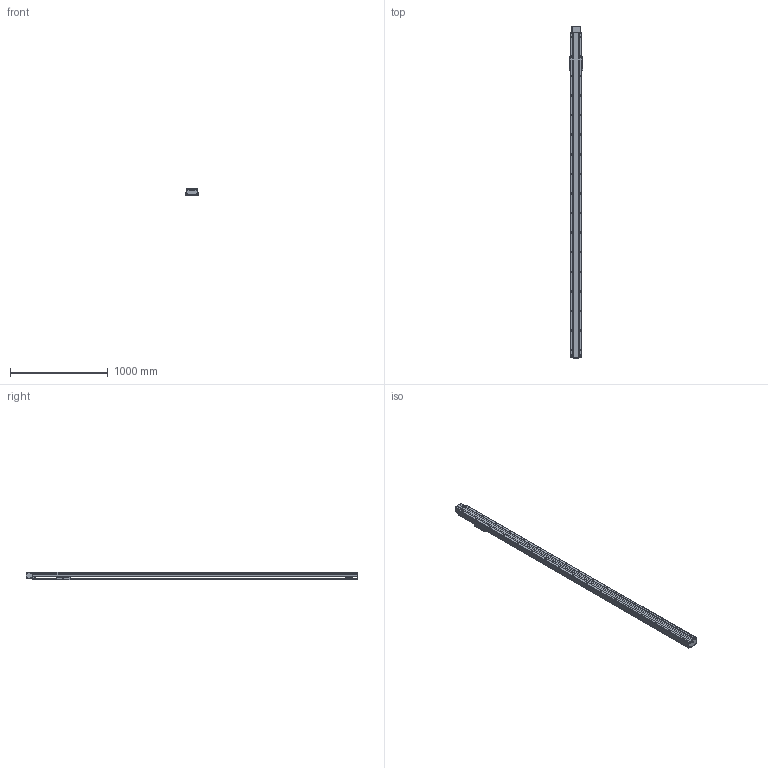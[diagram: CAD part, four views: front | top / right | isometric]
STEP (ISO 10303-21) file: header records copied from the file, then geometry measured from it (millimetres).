
FILE_DESCRIPTION(/* description */ (''),/* implementation_level */ '2;1');
FILE_NAME(/* name */ 'TKB120-FR-3000_asm1_stp.stp',/* time_stamp */ '2016-06-28T16:29:27+08:00',/* author */ (''),/* organization */ (''),/* preprocessor_version */ 'ST-DEVELOPER v15',/* originating_system */ 'SIEMENS PLM Software NX 8.5',/* authorisation */ '');
FILE_SCHEMA (('AUTOMOTIVE_DESIGN { 1 0 10303 214 3 1 1 1 }'));
Length unit declared in the file: millimetre
Products named in the file (3): 200-2; 200-1; TKB120-FR-3000_asm1_stp
Assembly tree (2 placements, depth 2):
  TKB120-FR-3000_asm1_stp
    200-1
    200-2
Bounding box: 134 x 3391 x 80 mm (x, y, z)
Volume: 7982512.3 mm3; surface area: 3365586.9 mm2
Topology: 2 solids, 3 shells, 959 faces, 2855 edges, 1872 vertices
Faces by surface type: cylinder 493, plane 424, cone 42
Full cylindrical faces by diameter (mm): 2.5 x4, 3.3 x20, 4.2 x4, 4.5 x24, 5 x46, 5.5 x36, 6.6 x6, 6.8 x4, 7.5 x4, 8 x12, 9 x6, 9.75 x72, 10.5 x4, 11 x2, 12 x4, 14 x2, 17 x2, 35 x2, 40 x3, 50 x2, 52 x1
Entity records: 32171 total; most frequent: CARTESIAN_POINT 7287, DIRECTION 5170, ORIENTED_EDGE 4820, EDGE_CURVE 2410, AXIS2_PLACEMENT_3D 1994, VERTEX_POINT 1771, EDGE_LOOP 1527, LINE 1182
